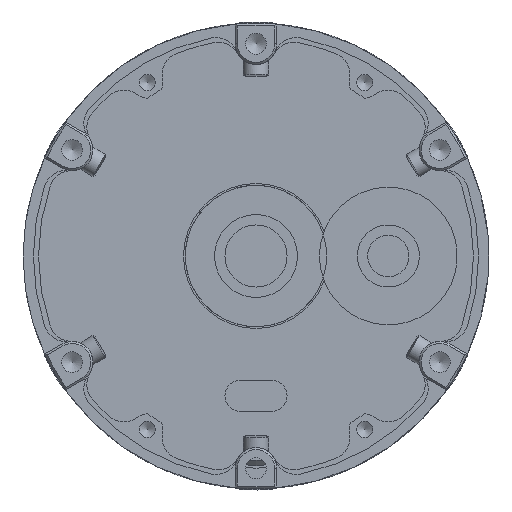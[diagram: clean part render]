
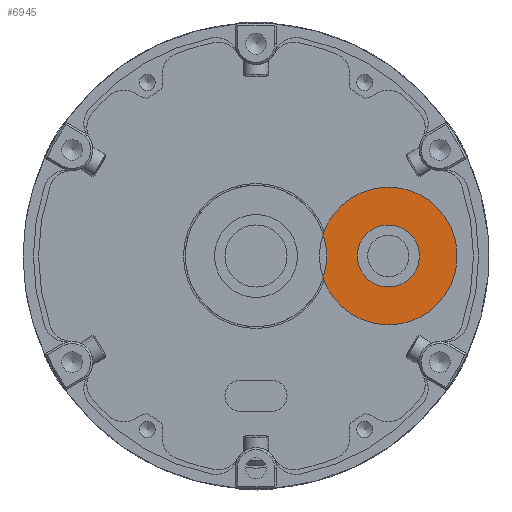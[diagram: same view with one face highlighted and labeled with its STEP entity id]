
A CAD part, left-side view. The second image highlights one B-rep face of the part: STEP entity #6945.
In plain terms, the highlighted planar face has unit normal (-1, 0, 0).
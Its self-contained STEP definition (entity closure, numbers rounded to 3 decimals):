
#532=FACE_BOUND('',#1281,.T.);
#602=PLANE('',#7551);
#859=FACE_OUTER_BOUND('',#1280,.T.);
#1280=EDGE_LOOP('',(#5089,#5090));
#1281=EDGE_LOOP('',(#5091));
#2673=CIRCLE('',#7549,6.65);
#2675=CIRCLE('',#7552,6.825);
#2676=CIRCLE('',#7553,3.);
#3256=VERTEX_POINT('',#11466);
#3258=VERTEX_POINT('',#11469);
#3260=VERTEX_POINT('',#11476);
#3953=EDGE_CURVE('',#3256,#3258,#2673,.T.);
#3956=EDGE_CURVE('',#3256,#3258,#2675,.T.);
#3957=EDGE_CURVE('',#3260,#3260,#2676,.T.);
#5089=ORIENTED_EDGE('',*,*,#3956,.T.);
#5090=ORIENTED_EDGE('',*,*,#3953,.F.);
#5091=ORIENTED_EDGE('',*,*,#3957,.T.);
#6945=ADVANCED_FACE('',(#859,#532),#602,.T.);
#7549=AXIS2_PLACEMENT_3D('',#11470,#8817,#8818);
#7551=AXIS2_PLACEMENT_3D('',#11474,#8822,#8823);
#7552=AXIS2_PLACEMENT_3D('',#11475,#8824,#8825);
#7553=AXIS2_PLACEMENT_3D('',#11477,#8826,#8827);
#8817=DIRECTION('center_axis',(1.,0.,0.));
#8818=DIRECTION('ref_axis',(0.,0.813,-0.582));
#8822=DIRECTION('center_axis',(-1.,0.,0.));
#8823=DIRECTION('ref_axis',(0.,-0.813,0.582));
#8824=DIRECTION('center_axis',(1.,0.,0.));
#8825=DIRECTION('ref_axis',(0.,1.,-0.025));
#8826=DIRECTION('center_axis',(1.,0.,0.));
#8827=DIRECTION('ref_axis',(0.,0.808,-0.589));
#11466=CARTESIAN_POINT('',(18.223,-6.482,2.136));
#11469=CARTESIAN_POINT('',(18.223,-6.482,-2.136));
#11470=CARTESIAN_POINT('Origin',(18.223,-12.78,0.));
#11474=CARTESIAN_POINT('Origin',(18.223,-8.907,5.406));
#11475=CARTESIAN_POINT('Origin',(18.223,0.,
0.));
#11476=CARTESIAN_POINT('',(18.223,-14.548,-2.424));
#11477=CARTESIAN_POINT('Origin',(18.223,-12.78,0.));
